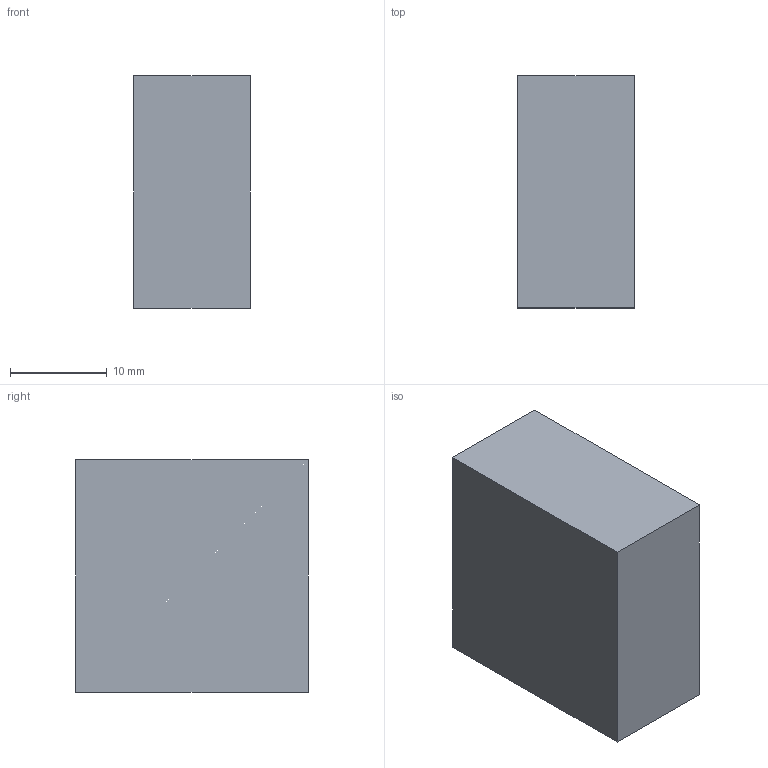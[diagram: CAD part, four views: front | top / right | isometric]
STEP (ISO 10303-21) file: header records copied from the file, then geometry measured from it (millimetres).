
FILE_DESCRIPTION(('Open CASCADE Model'),'2;1');
FILE_NAME('Open CASCADE Shape Model','2026-10-25T05:18:01',('Author'),( 'Open CASCADE'),'Open CASCADE STEP processor 7.9','Open CASCADE 7.9' ,'Unknown');
FILE_SCHEMA(('AUTOMOTIVE_DESIGN { 1 0 10303 214 1 1 1 1 }'));
Length unit declared in the file: millimetre
Products named in the file (1): Open CASCADE STEP translator 7.9 4
Bounding box: 12 x 24 x 24 mm (x, y, z)
Volume: 6912 mm3; surface area: 2304 mm2
Topology: 1 solids, 1 shells, 6 faces, 12 edges, 8 vertices
Faces by surface type: plane 6
Entity records: 322 total; most frequent: CARTESIAN_POINT 51, DIRECTION 50, LINE 36, VECTOR 36, ORIENTED_EDGE 24, PCURVE 24, DEFINITIONAL_REPRESENTATION 24, EDGE_CURVE 12
